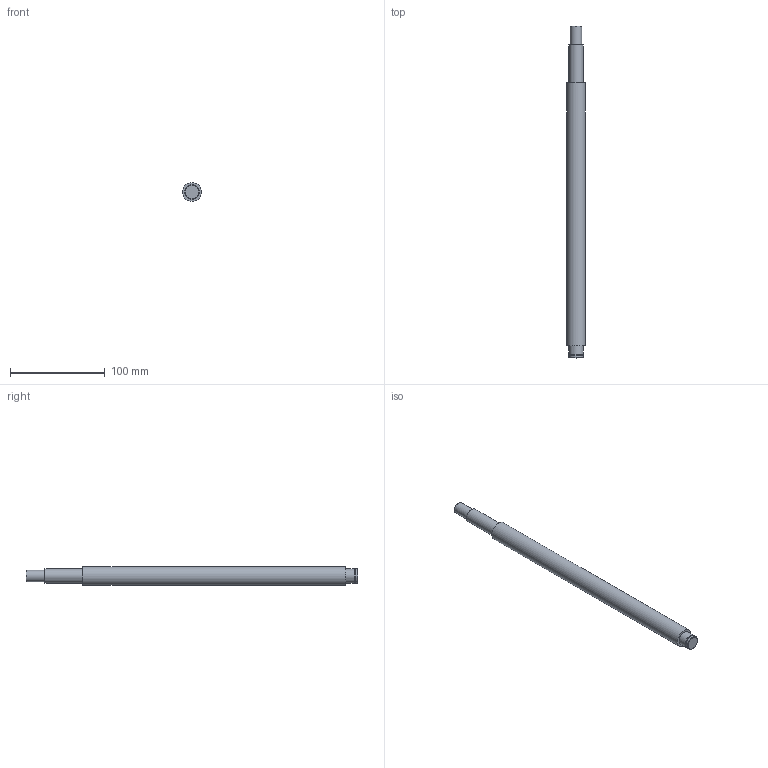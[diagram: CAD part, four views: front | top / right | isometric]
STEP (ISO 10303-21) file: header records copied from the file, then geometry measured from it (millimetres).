
FILE_DESCRIPTION(/* description */ (''),/* implementation_level */ '2;1');
FILE_NAME(/* name */ 'C:\Users\David\Desktop\stepFiles\Profilfuehrung\KUS2010x350.stp',/* time_stamp */ '2018-06-24T15:12:47+02:00',/* author */ ('David'),/* organization */ (''),/* preprocessor_version */ 'ST-DEVELOPER v17',/* originating_system */ 'Autodesk Inventor 2019',/* authorisation */ '');
FILE_SCHEMA (('AUTOMOTIVE_DESIGN { 1 0 10303 214 3 1 1 }'));
Length unit declared in the file: millimetre
Products named in the file (1): SFU2005xvaiabel
Bounding box: 20 x 350 x 20 mm (x, y, z)
Volume: 98621.1 mm3; surface area: 21288.5 mm2
Topology: 1 solids, 1 shells, 15 faces, 34 edges, 26 vertices
Faces by surface type: plane 7, cylinder 6, cone 2
Full cylindrical faces by diameter (mm): 12 x1, 14.3 x1, 15 x3, 20 x1
Entity records: 493 total; most frequent: DIRECTION 92, CARTESIAN_POINT 76, ORIENTED_EDGE 68, AXIS2_PLACEMENT_3D 42, EDGE_CURVE 34, CIRCLE 26, VERTEX_POINT 26, EDGE_LOOP 20
